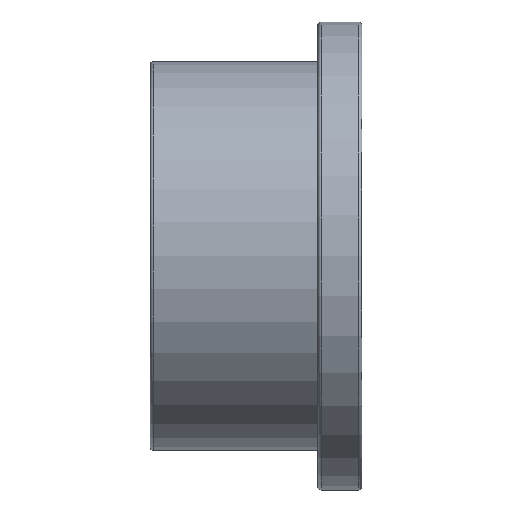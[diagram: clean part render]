
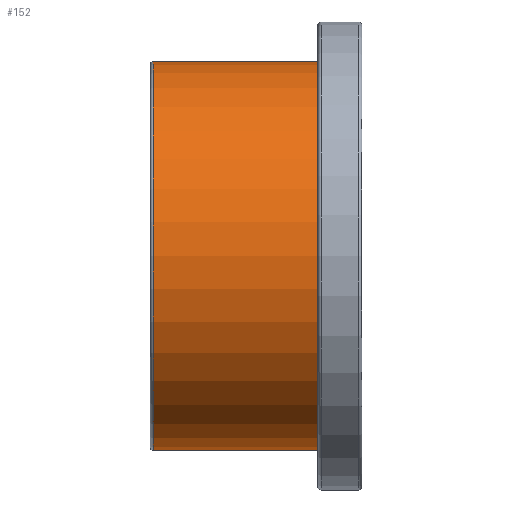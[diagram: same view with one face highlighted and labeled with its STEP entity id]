
A CAD part, top view. The second image highlights one B-rep face of the part: STEP entity #152.
In plain terms, the highlighted cylindrical face has radius 44 mm (diameter 88 mm), a full revolution.
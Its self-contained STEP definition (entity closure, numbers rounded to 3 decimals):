
#21=CYLINDRICAL_SURFACE('',#176,44.);
#30=FACE_BOUND('',#64,.T.);
#43=FACE_OUTER_BOUND('',#63,.T.);
#63=EDGE_LOOP('',(#128));
#64=EDGE_LOOP('',(#129));
#78=CIRCLE('',#166,44.);
#83=CIRCLE('',#175,44.);
#91=VERTEX_POINT('',#250);
#96=VERTEX_POINT('',#264);
#104=EDGE_CURVE('',#91,#91,#78,.T.);
#109=EDGE_CURVE('',#96,#96,#83,.T.);
#128=ORIENTED_EDGE('',*,*,#104,.T.);
#129=ORIENTED_EDGE('',*,*,#109,.F.);
#152=ADVANCED_FACE('',(#43,#30),#21,.T.);
#166=AXIS2_PLACEMENT_3D('',#251,#200,#201);
#175=AXIS2_PLACEMENT_3D('',#265,#218,#219);
#176=AXIS2_PLACEMENT_3D('',#266,#220,#221);
#200=DIRECTION('center_axis',(-1.,0.,0.));
#201=DIRECTION('ref_axis',(0.,0.,1.));
#218=DIRECTION('center_axis',(-1.,0.,0.));
#219=DIRECTION('ref_axis',(0.,1.,0.));
#220=DIRECTION('center_axis',(-1.,0.,0.));
#221=DIRECTION('ref_axis',(0.,-1.,0.));
#250=CARTESIAN_POINT('',(38.,-44.,0.));
#251=CARTESIAN_POINT('Origin',(38.,0.,0.));
#264=CARTESIAN_POINT('',(0.75,-44.,0.));
#265=CARTESIAN_POINT('Origin',(0.75,0.,0.));
#266=CARTESIAN_POINT('Origin',(19.,0.,0.));
